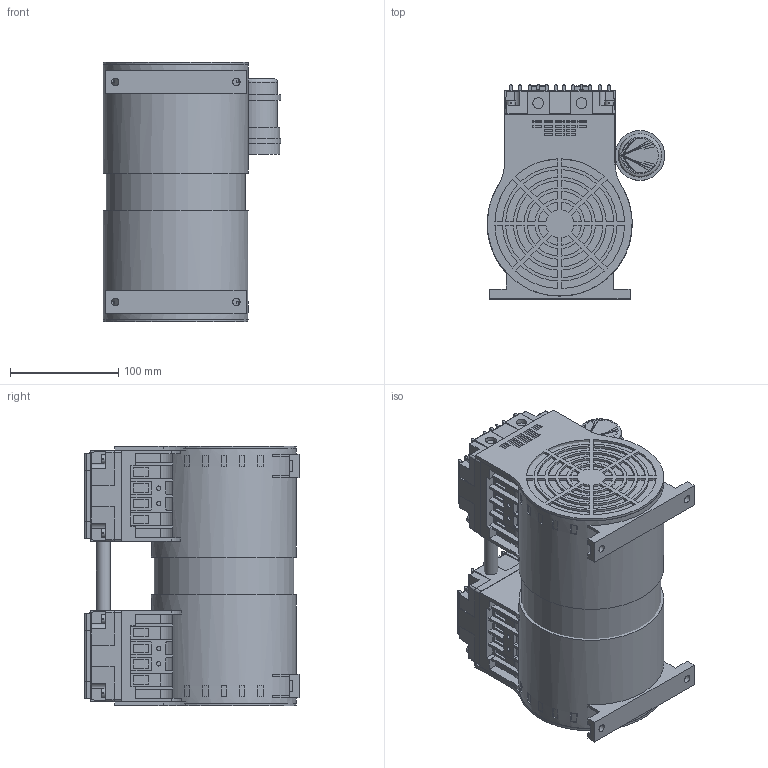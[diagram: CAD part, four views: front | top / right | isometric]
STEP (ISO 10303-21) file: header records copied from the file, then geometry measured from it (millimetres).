
FILE_DESCRIPTION(('STEP AP203'),'1');
FILE_NAME('CJP-120V.stp','2018-12-18T01:46:26',(' '),(' '),'Spatial InterOp 3D',' ',' ');
FILE_SCHEMA(('CONFIG_CONTROL_DESIGN'));
Length unit declared in the file: millimetre
Products named in the file (11): ____1; 퉞췦씁-40--1-solid1; JP-빌?NEW-1-solid1; NONE; 파트4; 퀂굘붸-2-solid1; 퀂굘붸-3-solid1; JP-쨁?-1-solid1; JP-빌?NEW-2-solid1; jp퐑곈-1-solid1; JP-쨁?-4-solid1
Assembly tree (10 placements, depth 2):
  ____1
    퉞췦씁-40--1-solid1
    JP-빌?NEW-1-solid1
    NONE
    파트4
    퀂굘붸-2-solid1
    퀂굘붸-3-solid1
    JP-쨁?-1-solid1
    JP-빌?NEW-2-solid1
    jp퐑곈-1-solid1
    JP-쨁?-4-solid1
Bounding box: 164.24 x 198 x 240 mm (x, y, z)
Volume: 5615027.4 mm3; surface area: 441004 mm2
Topology: 10 solids, 14 shells, 1695 faces, 4571 edges, 2997 vertices
Faces by surface type: plane 1161, cylinder 517, revolution 9, cone 8
Full cylindrical faces by diameter (mm): 4 x12, 6.3 x2, 7 x4, 8 x8, 10 x10, 11.203 x4, 12.7 x6, 40 x2, 44 x2, 46 x2, 129 x1, 134 x2
Entity records: 53716 total; most frequent: CARTESIAN_POINT 9435, ORIENTED_EDGE 9008, DIRECTION 8991, EDGE_CURVE 4504, LINE 3368, VECTOR 3368, VERTEX_POINT 2988, AXIS2_PLACEMENT_3D 2807
